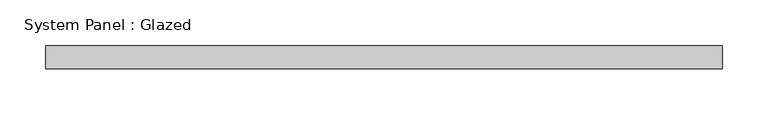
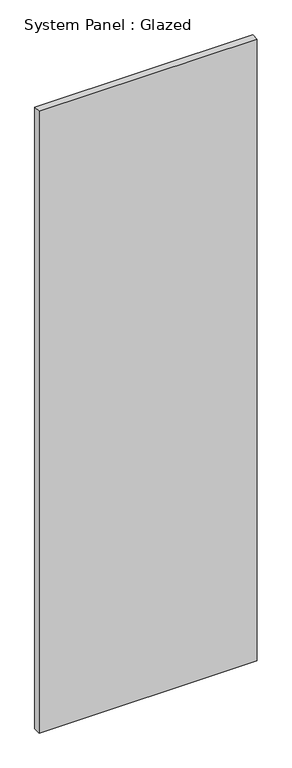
"""IFC4 building model written with IfcOpenShell, lengths in millimetres: plate geometry, System Panel : Glazed."""

import ifcopenshell
import ifcopenshell.guid

model = None  # the IFC model being written
_history = None  # IfcOwnerHistory: only IFC2X3 demands one
_inside = {}  # id of a spatial element -> (the spatial element, [elements in it])
_under = {}  # id of a project, library or spatial element -> (it, [spatial elements below it])
_declared = {}  # id of a project -> (the project, [libraries it declares])
_typed = {}  # id of a type object -> (the type object, [elements of that type])
_made_of = {}  # id of a material, layer set ... -> (it, [elements and type objects made of it])


def new_model(schema):
    """Start an empty IFC model of exactly this schema.

    Asked for "IFC4X3", IfcOpenShell would pick the latest addendum, in which some entities
    have other attributes; the version numbers below select the first issue.
    IFC2X3 requires an IfcOwnerHistory on every rooted entity: one is made here for all.
    """
    global model, _history
    if schema == "IFC4X3":
        model = ifcopenshell.file(schema_version=(4, 3, 0, 0))
    else:
        model = ifcopenshell.file(schema=schema)
    _inside.clear()
    _under.clear()
    _declared.clear()
    _typed.clear()
    _made_of.clear()
    _history = None
    if model.schema == "IFC2X3":
        org = make("IfcOrganization", Name="unknown")
        user = make(
            "IfcPersonAndOrganization",
            ThePerson=make("IfcPerson", FamilyName="unknown"),
            TheOrganization=org,
        )
        app = make(
            "IfcApplication",
            ApplicationDeveloper=org,
            Version="unknown",
            ApplicationFullName="unknown",
            ApplicationIdentifier="unknown",
        )
        _history = make(
            "IfcOwnerHistory",
            OwningUser=user,
            OwningApplication=app,
            ChangeAction="ADDED",
            CreationDate=0,
        )
    return model


def make(cls, **values):
    """One entity of the class cls with the attributes given. An attribute that is None is left unset."""
    return model.create_entity(
        cls, **{name: value for name, value in values.items() if value is not None}
    )


def rooted(cls, **values):
    """An entity with a GlobalId (a new one), such as an element, a storey or a relation."""
    return make(cls, GlobalId=ifcopenshell.guid.new(), OwnerHistory=_history, **values)


def si_unit(unit_type, name, prefix=None):
    """IfcSIUnit, for example si_unit("LENGTHUNIT", "METRE", prefix="MILLI")."""
    return make("IfcSIUnit", UnitType=unit_type, Prefix=prefix, Name=name)


def assignment(units):
    """IfcUnitAssignment: the units of a project."""
    return None if units is None else make("IfcUnitAssignment", Units=units)


def point(xyz):
    """IfcCartesianPoint."""
    return None if xyz is None else make("IfcCartesianPoint", Coordinates=xyz)


def direction(xyz):
    """IfcDirection."""
    return None if xyz is None else make("IfcDirection", DirectionRatios=xyz)


def frame(location, z_axis=None, x_axis=None):
    """IfcAxis2Placement3D, a coordinate frame: its origin and axes. An axis left out is left unset."""
    return make(
        "IfcAxis2Placement3D",
        Location=point(location),
        Axis=direction(z_axis),
        RefDirection=direction(x_axis),
    )


def origin():
    """The frame at (0, 0, 0) with its axes left unset."""
    return frame((0.0, 0.0, 0.0))


def origin_with_axes():
    """The frame at (0, 0, 0) with the z axis (0, 0, 1) and the x axis (1, 0, 0) written out."""
    return frame((0.0, 0.0, 0.0), z_axis=(0.0, 0.0, 1.0), x_axis=(1.0, 0.0, 0.0))


def place(relative_to, where):
    """IfcLocalPlacement: puts the frame where relative to a parent placement (None: the world)."""
    return make(
        "IfcLocalPlacement", PlacementRelTo=relative_to, RelativePlacement=where
    )


def context(
    kind, dimensions, precision=None, world=None, true_north=None, identifier=None
):
    """IfcGeometricRepresentationContext, for example the 3D "Model" context."""
    return make(
        "IfcGeometricRepresentationContext",
        ContextIdentifier=identifier,
        ContextType=kind,
        CoordinateSpaceDimension=dimensions,
        Precision=precision,
        WorldCoordinateSystem=world,
        TrueNorth=true_north,
    )


def project(units=None, contexts=None):
    """IfcProject with its units and contexts."""
    return rooted(
        "IfcProject",
        Name="project",
        RepresentationContexts=contexts,
        UnitsInContext=assignment(units),
    )


def spatial(cls, under=None, at=None, **own):
    """A site, building, storey or space (cls), placed at a placement, below another one or the project."""
    s = rooted(cls, ObjectPlacement=at, **own)
    if under is not None:
        _under.setdefault(under.id(), (under, []))[1].append(s)
    return s


def polyline(points):
    """IfcPolyline through the points."""
    return make("IfcPolyline", Points=[point(p) for p in points])


def outline(outer, holes=None, kind="AREA"):
    """IfcArbitraryClosedProfileDef: a profile drawn as a closed curve; with holes, ...WithVoids."""
    if holes is None:
        return make("IfcArbitraryClosedProfileDef", ProfileType=kind, OuterCurve=outer)
    return make(
        "IfcArbitraryProfileDefWithVoids",
        ProfileType=kind,
        OuterCurve=outer,
        InnerCurves=holes,
    )


def extrude(swept, where, along, depth):
    """IfcExtrudedAreaSolid: the profile swept, set in the frame where, extruded along a direction by depth."""
    return make(
        "IfcExtrudedAreaSolid",
        SweptArea=swept,
        Position=where,
        ExtrudedDirection=direction(along),
        Depth=depth,
    )


def shape(context_of_items, identifier, shape_type, items):
    """IfcShapeRepresentation: the items that make up one representation, for example the "Body"."""
    return make(
        "IfcShapeRepresentation",
        ContextOfItems=context_of_items,
        RepresentationIdentifier=identifier,
        RepresentationType=shape_type,
        Items=items,
    )


def source(mapping_origin, context_of_items, identifier, shape_type, items):
    """IfcRepresentationMap: a shape defined once, which mapped items show again and again."""
    return make(
        "IfcRepresentationMap",
        MappingOrigin=mapping_origin,
        MappedRepresentation=shape(context_of_items, identifier, shape_type, items),
    )


def transform(
    local_origin,
    x_axis=None,
    y_axis=None,
    z_axis=None,
    scale=None,
    scale2=None,
    scale3=None,
    uniform=True,
):
    """IfcCartesianTransformationOperator3D, or its non-uniform kind. x_axis, y_axis, z_axis: its Axis1, 2, 3."""
    if uniform:
        return make(
            "IfcCartesianTransformationOperator3D",
            Axis1=direction(x_axis),
            Axis2=direction(y_axis),
            LocalOrigin=point(local_origin),
            Scale=scale,
            Axis3=direction(z_axis),
        )
    return make(
        "IfcCartesianTransformationOperator3DnonUniform",
        Axis1=direction(x_axis),
        Axis2=direction(y_axis),
        LocalOrigin=point(local_origin),
        Scale=scale,
        Axis3=direction(z_axis),
        Scale2=scale2,
        Scale3=scale3,
    )


def mapped(mapping_source, mapping_target):
    """IfcMappedItem: shows the shape of a source again, moved by a transform."""
    return make(
        "IfcMappedItem", MappingSource=mapping_source, MappingTarget=mapping_target
    )


def made_of(thing, what):
    """Note that an element or type object is made of a material, layer set ...; save() writes the relation."""
    if what is not None:
        _made_of.setdefault(what.id(), (what, []))[1].append(thing)
    return thing


def element(
    cls,
    number,
    at=None,
    inside=None,
    cuts=None,
    type_object=None,
    material=None,
    context=None,
    identifier="Body",
    shape_type=None,
    held_by="IfcProductDefinitionShape",
    body=None,
    shapes=None,
    **own,
):
    """One element of the class cls, such as IfcWall. Its Tag is "e" and its number.

    at: its placement. inside: the storey or other place that contains it. cuts: it is an
    opening in that element (IfcRelVoidsElement). A single representation is given by context,
    identifier, shape_type and body (its items); several are given by shapes. held_by: the class
    of the entity that holds the representations. save() writes the other relations.
    """
    e = rooted(cls, Tag="e%d" % number, ObjectPlacement=at, **own)
    if body is not None:
        shapes = [shape(context, identifier, shape_type, body)]
    if shapes is not None:
        e.Representation = make(held_by, Representations=shapes)
    if inside is not None:
        _inside.setdefault(inside.id(), (inside, []))[1].append(e)
    if cuts is not None:
        rooted(
            "IfcRelVoidsElement", RelatingBuildingElement=cuts, RelatedOpeningElement=e
        )
    if type_object is not None:
        _typed.setdefault(type_object.id(), (type_object, []))[1].append(e)
    return made_of(e, material)


def aggregate(whole, parts):
    """IfcRelAggregates: a whole, such as a stair, and the parts it consists of."""
    return rooted("IfcRelAggregates", RelatingObject=whole, RelatedObjects=parts)


def save(model, path):
    """Write the relations noted so far, then the file.

    IfcRelAggregates (storeys below a building ...), IfcRelContainedInSpatialStructure (elements
    in a storey), IfcRelDefinesByType, IfcRelAssociatesMaterial and IfcRelDeclares: one each for
    every whole, place, type object, material and project.
    """
    for whole, parts in _under.values():
        aggregate(whole, parts)
    for where, things in _inside.values():
        rooted(
            "IfcRelContainedInSpatialStructure",
            RelatedElements=things,
            RelatingStructure=where,
        )
    for kind, things in _typed.values():
        rooted("IfcRelDefinesByType", RelatedObjects=things, RelatingType=kind)
    for what, things in _made_of.values():
        rooted("IfcRelAssociatesMaterial", RelatedObjects=things, RelatingMaterial=what)
    for by, libraries in _declared.values():
        rooted("IfcRelDeclares", RelatingContext=by, RelatedDefinitions=libraries)
    model.write(path)


def system_panel_glazed_76cff112(model_context):
    return source(origin(), model_context, "Body", "SweptSolid", [
        extrude(outline(polyline([(369.1666666, 24.5), (-369.1666666, 24.5), (-369.1666666, 49.5), (369.1666666, 49.5), (369.1666666, 24.5)])), origin_with_axes(), (0.0, 0.0, 1.0), 2225.0),
    ])


if __name__ == "__main__":
    model = new_model("IFC4")
    model_context = context("Model", 3, world=origin())
    ifc_project = project(units=[si_unit("LENGTHUNIT", "METRE", prefix="MILLI")], contexts=[model_context])
    site = spatial("IfcSite", under=ifc_project)
    building = spatial("IfcBuilding", under=site)
    placement = place(None, origin())
    system_panel_glazed_shape = system_panel_glazed_76cff112(model_context)
    element("IfcPlate", 1, ObjectType="System Panel : Glazed", at=placement, inside=building, context=model_context, shape_type="MappedRepresentation", body=[
        mapped(system_panel_glazed_shape, transform((0.0, 0.0, 0.0), x_axis=(1.0, 0.0, 0.0), y_axis=(0.0, 1.0, 0.0), z_axis=(0.0, 0.0, 1.0))),
    ])
    save(model, "model.ifc")
